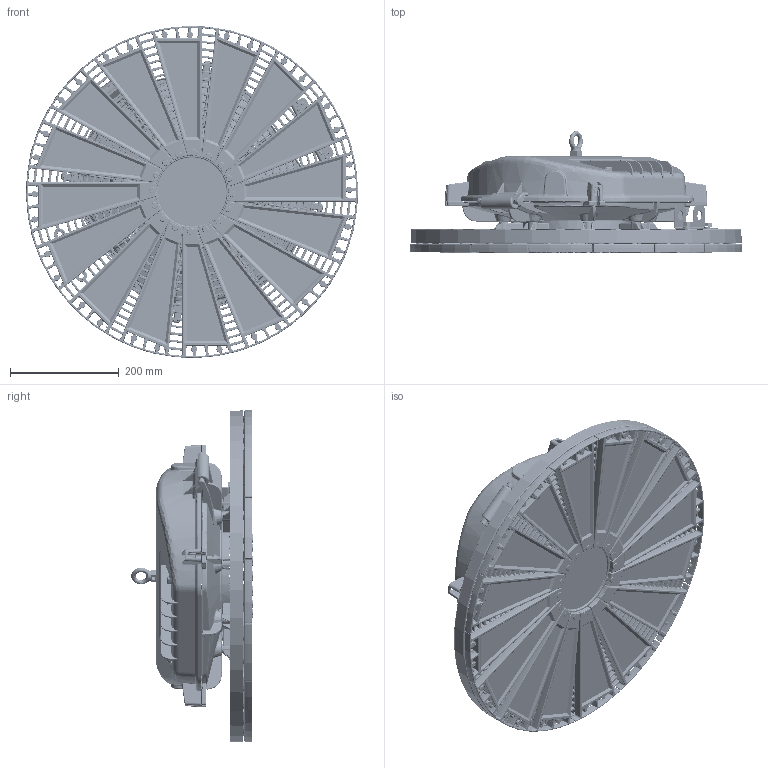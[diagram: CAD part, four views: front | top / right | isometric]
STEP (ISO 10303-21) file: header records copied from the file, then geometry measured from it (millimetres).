
FILE_DESCRIPTION((''),'2;1');
FILE_NAME('H7XXXXXXXHXXXX_SW0001','2020-08-19T11:44:23',('Wangc'),(''),'CREO PARAMETRIC BY PTC INC, 2019080','CREO PARAMETRIC BY PTC INC, 2019080','');
FILE_SCHEMA(('CONFIG_CONTROL_DESIGN'));
Length unit declared in the file: inch
Products named in the file (1): H7XXXXXXXHXXXX_SW0001
Bounding box: 609.28 x 223.12 x 609.3 mm (x, y, z)
Surface area: 1885101.5 mm2 (no closed solid volume)
Topology: 0 solids, 110 shells, 14549 faces, 43710 edges, 27325 vertices
Faces by surface type: cylinder 4290, bspline 3839, plane 2438, torus 2117, cone 1753, sphere 109, extrusion 2, revolution 1
Entity records: 792587 total; most frequent: CARTESIAN_POINT 453281, ORIENTED_EDGE 70665, DIRECTION 61054, EDGE_CURVE 43648, VERTEX_POINT 27327, AXIS2_PLACEMENT_3D 24438, B_SPLINE_CURVE_WITH_KNOTS 17745, EDGE_LOOP 15151
